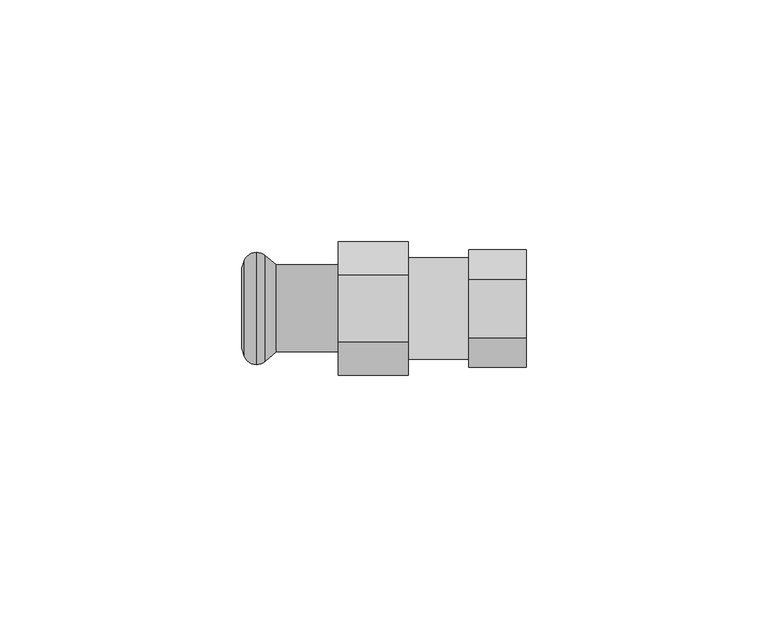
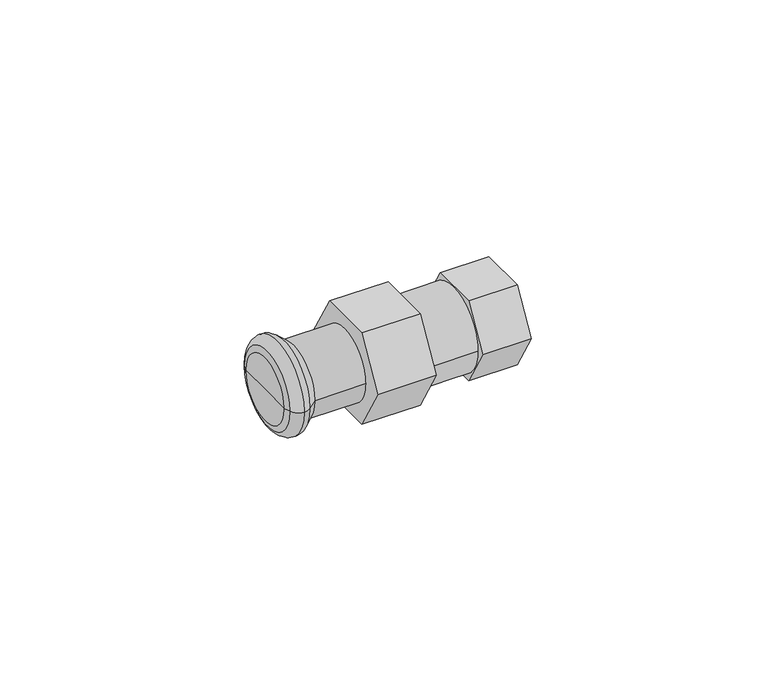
"""IFC4 building model written with IfcOpenShell, lengths in millimetres: pipe fitting geometry, KAN-therm Steel śrubunek GW : KAN-therm Steel śrubunek GW."""

from ifc_helpers import new_model, si_unit, point, frame, origin, origin_2d, place, context, project, spatial, polyline, circle_curve, ellipse_curve, trimmed, segment, composite_curve, outline, extrude, source, transform, mapped, element, save
from ifc_brep_helpers import plane_surface, cylinder_surface, revolved_surface, advanced_brep


def pipe_fitting_5368a910(model_context):
    return source(origin(), model_context, "Body", "SolidModel", [
        extrude(outline(polyline([(-12.1243557, 0.0), (-6.0621778, 10.5), (6.0621778, 10.5), (12.1243557, 0.0), (6.0621778, -10.5), (-6.0621778, -10.5), (-12.1243557, 0.0)])), frame((27.0, 0.0, 0.0), z_axis=(1.0, 0.0, 0.0), x_axis=(0.0, 1.0, 0.0)), (0.0, 0.0, 1.0), 12.0),
        extrude(outline(composite_curve([segment(trimmed(circle_curve(origin_2d(), 10.5), [point((-10.5, 0.0))], [point((10.5, 0.0))], False, "CARTESIAN"), True, "CONTINUOUS"), segment(trimmed(circle_curve(origin_2d(), 10.5), [point((10.5, 0.0))], [point((-10.5, 0.0))], False, "CARTESIAN"), True, "CONTINUOUS")], self_intersect=False)), frame((14.5, 0.0, 0.0), z_axis=(1.0, 0.0, 0.0), x_axis=(0.0, 1.0, 0.0)), (0.0, 0.0, 1.0), 12.5),
        extrude(outline(polyline([(-13.8564065, 0.0), (-6.9282032, 12.0), (6.9282032, 12.0), (13.8564065, 0.0), (6.9282032, -12.0), (-6.9282032, -12.0), (-13.8564065, 0.0)])), frame((0.0, 0.0, 0.0), z_axis=(1.0, 0.0, 0.0), x_axis=(0.0, 1.0, 0.0)), (0.0, 0.0, 1.0), 14.5),
        advanced_brep(
        [(-12.7838092, -9.0, 0.0), (-12.7838092, 9.0, 0.0), (0.0, 9.0, 0.0), (0.0, -9.0, 0.0), (-15.0922627, -10.9370225, 0.0), (-15.0922627, 10.9370225, 0.0), (-16.8921278, -11.625, 0.0), (-16.8921278, 11.625, 0.0), (-19.432052, -9.8484544, 0.0), (-19.432052, 9.8484544, 0.0), (-20.0, -8.2880302, 0.0), (-20.0, 8.2880302, 0.0), (-20.0, 0.0, 0.0), (0.0, 0.0, 0.0)],
        [
            (0, 1, circle_curve(frame((-12.7838092, 0.0, 0.0), z_axis=(1.0, 0.0, 0.0), x_axis=(0.0, 1.0, 0.0)), 9.0)),
            (1, 2),
            (2, 3, circle_curve(frame((0.0, 0.0, 0.0), z_axis=(-1.0, 0.0, 0.0), x_axis=(0.0, 1.0, 0.0)), 9.0)),
            (3, 0),
            (1, 0, circle_curve(frame((-12.7838092, 0.0, 0.0), z_axis=(1.0, 0.0, 0.0), x_axis=(0.0, 1.0, 0.0)), 9.0)),
            (3, 2, circle_curve(frame((0.0, 0.0, 0.0), z_axis=(-1.0, 0.0, 0.0), x_axis=(0.0, 1.0, 0.0)), 9.0)),
            (4, 5, circle_curve(frame((-15.0922627, 0.0, 0.0), z_axis=(1.0, 0.0, 0.0), x_axis=(0.0, 1.0, 0.0)), 10.9370225)),
            (5, 1),
            (0, 4),
            (5, 4, circle_curve(frame((-15.0922627, 0.0, 0.0), z_axis=(1.0, 0.0, 0.0), x_axis=(0.0, 1.0, 0.0)), 10.9370225)),
            (6, 7, circle_curve(frame((-16.8921278, 0.0, 0.0), z_axis=(1.0, 0.0, 0.0), x_axis=(0.0, 1.0, 0.0)), 11.625)),
            (7, 5, circle_curve(frame((-16.8935049, 8.9230333, 0.0), z_axis=(0.0, 0.0, -1.0), x_axis=(1.0, 0.0, 0.0)), 2.701967)),
            (4, 6, circle_curve(frame((-16.8935049, -8.9230333, 0.0), z_axis=(0.0, 0.0, -1.0), x_axis=(1.0, 0.0, 0.0)), 2.701967)),
            (7, 6, circle_curve(frame((-16.8921278, 0.0, 0.0), z_axis=(1.0, 0.0, 0.0), x_axis=(0.0, 1.0, 0.0)), 11.625)),
            (8, 9, circle_curve(frame((-19.432052, 0.0, 0.0), z_axis=(1.0, 0.0, 0.0), x_axis=(0.0, 1.0, 0.0)), 9.8484544)),
            (9, 7, circle_curve(frame((-16.89488, 8.9249993, 0.0), z_axis=(0.0, 0.0, -1.0), x_axis=(1.0, 0.0, 0.0)), 2.7000021)),
            (6, 8, circle_curve(frame((-16.89488, -8.9249993, 0.0), z_axis=(0.0, 0.0, -1.0), x_axis=(1.0, 0.0, 0.0)), 2.7000021)),
            (9, 8, circle_curve(frame((-19.432052, 0.0, 0.0), z_axis=(1.0, 0.0, 0.0), x_axis=(0.0, 1.0, 0.0)), 9.8484544)),
            (10, 11, circle_curve(frame((-20.0, 0.0, 0.0), z_axis=(1.0, 0.0, 0.0), x_axis=(0.0, 1.0, 0.0)), 8.2880302)),
            (11, 9),
            (8, 10),
            (11, 10, circle_curve(frame((-20.0, 0.0, 0.0), z_axis=(1.0, 0.0, 0.0), x_axis=(0.0, 1.0, 0.0)), 8.2880302)),
            (12, 11),
            (10, 12),
            (2, 13),
            (13, 3),
        ],
        [
            cylinder_surface(frame((1352.742668, 0.0, 0.0), z_axis=(-1.0, 0.0, 0.0), x_axis=(0.0, 1.0, 0.0)), 9.0),
            revolved_surface(polyline([(-12.7838092, 9.0, 0.0), (-15.0922627, 10.9370225, 0.0)]), (1352.742668, 0.0, 0.0), (-1.0, 0.0, 0.0)),
            revolved_surface(trimmed(ellipse_curve(frame((-16.8935049, 8.9230333, 0.0), z_axis=(0.0, 0.0, 1.0), x_axis=(1.0, 0.0, 0.0)), 2.701967, 2.701967), [point((-15.0922627, 10.9370225, 0.0))], [point((-16.8921278, 11.625, 0.0))], True, "CARTESIAN"), (1352.742668, 0.0, 0.0), (-1.0, 0.0, 0.0)),
            revolved_surface(trimmed(ellipse_curve(frame((-16.89488, 8.9249993, 0.0), z_axis=(0.0, 0.0, 1.0), x_axis=(1.0, 0.0, 0.0)), 2.7000021, 2.7000021), [point((-16.8921278, 11.625, 0.0))], [point((-19.432052, 9.8484544, 0.0))], True, "CARTESIAN"), (1352.742668, 0.0, 0.0), (-1.0, 0.0, 0.0)),
            revolved_surface(polyline([(-19.432052, 9.8484544, 0.0), (-20.0, 8.2880302, 0.0)]), (1352.742668, 0.0, 0.0), (-1.0, 0.0, 0.0)),
            plane_surface(frame((-20.0, 0.0, 0.0), z_axis=(-1.0, 0.0, 0.0), x_axis=(0.0, 1.0, 0.0))),
            plane_surface(frame((0.0, 0.0, 0.0), z_axis=(1.0, 0.0, 0.0), x_axis=(0.0, 1.0, 0.0))),
        ],
        [
            (0, [[1, 2, 3, 4]]),
            (0, [[5, -4, 6, -2]]),
            (1, [[7, 8, -1, 9]]),
            (1, [[10, -9, -5, -8]]),
            (2, [[11, 12, -7, 13]]),
            (2, [[14, -13, -10, -12]]),
            (3, [[15, 16, -11, 17]]),
            (3, [[18, -17, -14, -16]]),
            (4, [[19, 20, -15, 21]]),
            (4, [[22, -21, -18, -20]]),
            (5, [[23, -19, 24]]),
            (5, [[-24, -22, -23]]),
            (6, [[-3, 25, 26]]),
            (6, [[-6, -26, -25]]),
        ],
    ),
    ])


if __name__ == "__main__":
    model = new_model("IFC4")
    model_context = context("Model", 3, world=origin())
    ifc_project = project(units=[si_unit("LENGTHUNIT", "METRE", prefix="MILLI")], contexts=[model_context])
    site = spatial("IfcSite", under=ifc_project)
    building = spatial("IfcBuilding", under=site)
    placement = place(None, origin())
    pipe_fitting_shape = pipe_fitting_5368a910(model_context)
    element("IfcPipeFitting", 1, ObjectType="KAN-therm Steel śrubunek GW : KAN-therm Steel śrubunek GW", at=placement, inside=building, context=model_context, shape_type="MappedRepresentation", body=[
        mapped(pipe_fitting_shape, transform((0.0, 0.0, 0.0), x_axis=(1.0, 0.0, 0.0), y_axis=(0.0, 1.0, 0.0), z_axis=(0.0, 0.0, 1.0))),
    ])
    save(model, "model.ifc")
